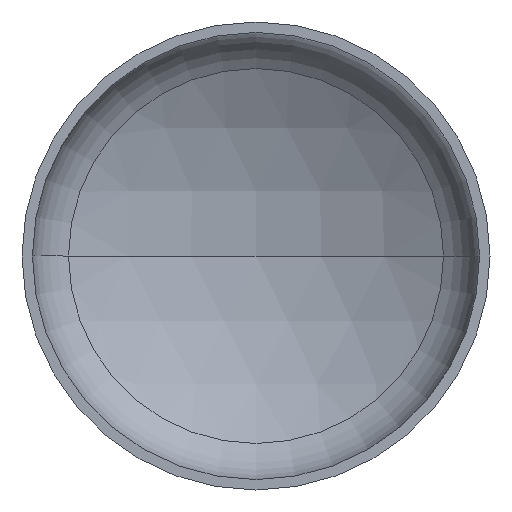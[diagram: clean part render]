
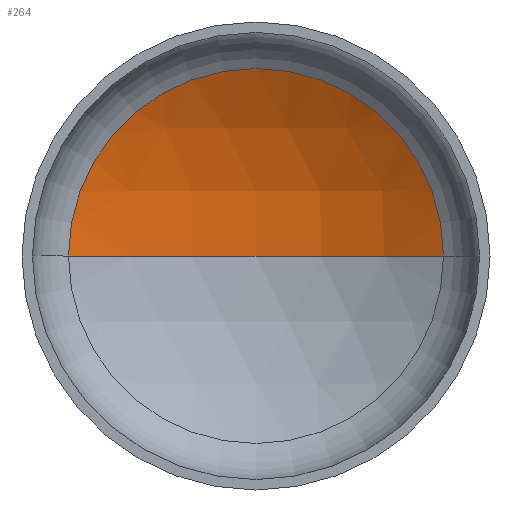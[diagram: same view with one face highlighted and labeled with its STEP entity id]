
A CAD part, front view. The second image highlights one B-rep face of the part: STEP entity #264.
In plain terms, the highlighted spherical face has radius 1760 mm.
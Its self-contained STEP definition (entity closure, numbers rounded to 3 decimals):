
#17 = EDGE_LOOP ( 'NONE', ( #71, #42, #123 ) ) ;
#42 = ORIENTED_EDGE ( 'NONE', *, *, #166, .T. ) ;
#46 = VERTEX_POINT ( 'NONE', #290 ) ;
#53 = AXIS2_PLACEMENT_3D ( 'NONE', #88, #246, #392 ) ;
#56 = AXIS2_PLACEMENT_3D ( 'NONE', #280, #277, #248 ) ;
#67 = VERTEX_POINT ( 'NONE', #255 ) ;
#70 = AXIS2_PLACEMENT_3D ( 'NONE', #229, #261, #259 ) ;
#71 = ORIENTED_EDGE ( 'NONE', *, *, #169, .F. ) ;
#76 = AXIS2_PLACEMENT_3D ( 'NONE', #210, #359, #377 ) ;
#88 = CARTESIAN_POINT ( 'NONE',  ( 0., -1079.178, 0. ) ) ;
#100 = VERTEX_POINT ( 'NONE', #253 ) ;
#123 = ORIENTED_EDGE ( 'NONE', *, *, #161, .T. ) ;
#161 = EDGE_CURVE ( 'NONE', #46, #67, #184, .T. ) ;
#166 = EDGE_CURVE ( 'NONE', #100, #46, #234, .T. ) ;
#169 = EDGE_CURVE ( 'NONE', #100, #67, #176, .T. ) ;
#176 = CIRCLE ( 'NONE', #56, 1760. ) ;
#184 = CIRCLE ( 'NONE', #76, 881.239 ) ;
#210 = CARTESIAN_POINT ( 'NONE',  ( 0., 444.31, 0. ) ) ;
#229 = CARTESIAN_POINT ( 'NONE',  ( 0., -1079.178, 0. ) ) ;
#234 = CIRCLE ( 'NONE', #70, 1760. ) ;
#246 = DIRECTION ( 'NONE',  ( 0., 0., -1. ) ) ;
#248 = DIRECTION ( 'NONE',  ( 1., 0., 0. ) ) ;
#253 = CARTESIAN_POINT ( 'NONE',  ( 0., 680.822, 0. ) ) ;
#255 = CARTESIAN_POINT ( 'NONE',  ( -881.239, 444.31, 0. ) ) ;
#259 = DIRECTION ( 'NONE',  ( -1., 0., 0. ) ) ;
#261 = DIRECTION ( 'NONE',  ( 0., 0., -1. ) ) ;
#264 = ADVANCED_FACE ( 'NONE', ( #352 ), #404, .F. ) ;
#277 = DIRECTION ( 'NONE',  ( 0., 0., 1. ) ) ;
#280 = CARTESIAN_POINT ( 'NONE',  ( 0., -1079.178, 0. ) ) ;
#290 = CARTESIAN_POINT ( 'NONE',  ( 881.239, 444.31, 0. ) ) ;
#352 = FACE_OUTER_BOUND ( 'NONE', #17, .T. ) ;
#359 = DIRECTION ( 'NONE',  ( 0., -1., 0. ) ) ;
#377 = DIRECTION ( 'NONE',  ( 1., 0., 0. ) ) ;
#392 = DIRECTION ( 'NONE',  ( -1., 0., 0. ) ) ;
#404 = SPHERICAL_SURFACE ( 'NONE', #53, 1760. ) ;
